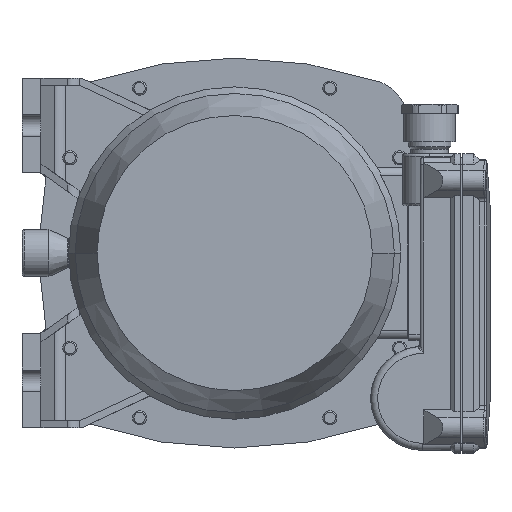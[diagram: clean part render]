
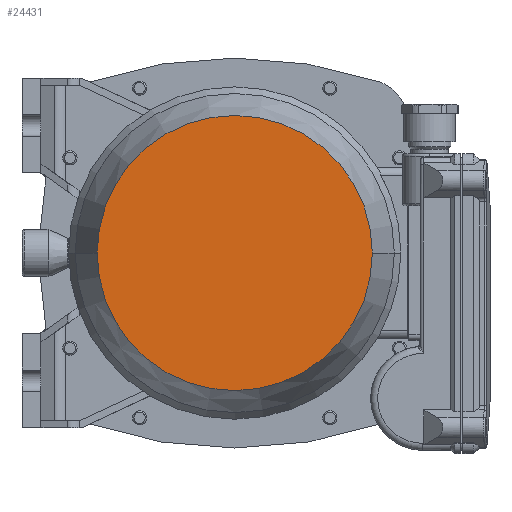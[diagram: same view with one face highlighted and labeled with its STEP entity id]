
A CAD part, front view. The second image highlights one B-rep face of the part: STEP entity #24431.
In plain terms, the highlighted planar face has unit normal (0, -1, 0) as drawn and (1, 0, 0) by its records, which use the part's own axes.
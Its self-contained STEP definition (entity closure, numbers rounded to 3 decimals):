
#18548=CARTESIAN_POINT('',(181.,0.,0.));
#18549=DIRECTION('',(-1.,0.,0.));
#18550=DIRECTION('',(0.,1.,0.));
#18551=AXIS2_PLACEMENT_3D('',#18548,#18549,#18550);
#18556=CARTESIAN_POINT('',(181.,0.,0.));
#18557=DIRECTION('',(1.,0.,0.));
#18558=DIRECTION('',(0.,1.,0.));
#18559=AXIS2_PLACEMENT_3D('',#18556,#18557,#18558);
#19835=CARTESIAN_POINT('',(181.,58.207,0.));
#19837=VERTEX_POINT('',#19835);
#19845=CARTESIAN_POINT('',(181.,-58.207,0.));
#19847=VERTEX_POINT('',#19845);
#24422=CARTESIAN_POINT('',(181.,0.,0.));
#24423=DIRECTION('',(1.,0.,0.));
#24424=DIRECTION('',(0.,-1.,0.));
#24425=AXIS2_PLACEMENT_3D('',#24422,#24423,#24424);
#24426=PLANE('',#24425);
#24427=ORIENTED_EDGE('',*,*,#24404,.T.);
#24428=ORIENTED_EDGE('',*,*,#24415,.F.);
#24429=EDGE_LOOP('',(#24427,#24428));
#24430=FACE_OUTER_BOUND('',#24429,.F.);
#18552=CIRCLE('',#18551,58.207);
#18560=CIRCLE('',#18559,58.207);
#24404=EDGE_CURVE('',#19837,#19847,#18552,.T.);
#24415=EDGE_CURVE('',#19837,#19847,#18560,.T.);
#24431=ADVANCED_FACE('',(#24430),#24426,.T.);
